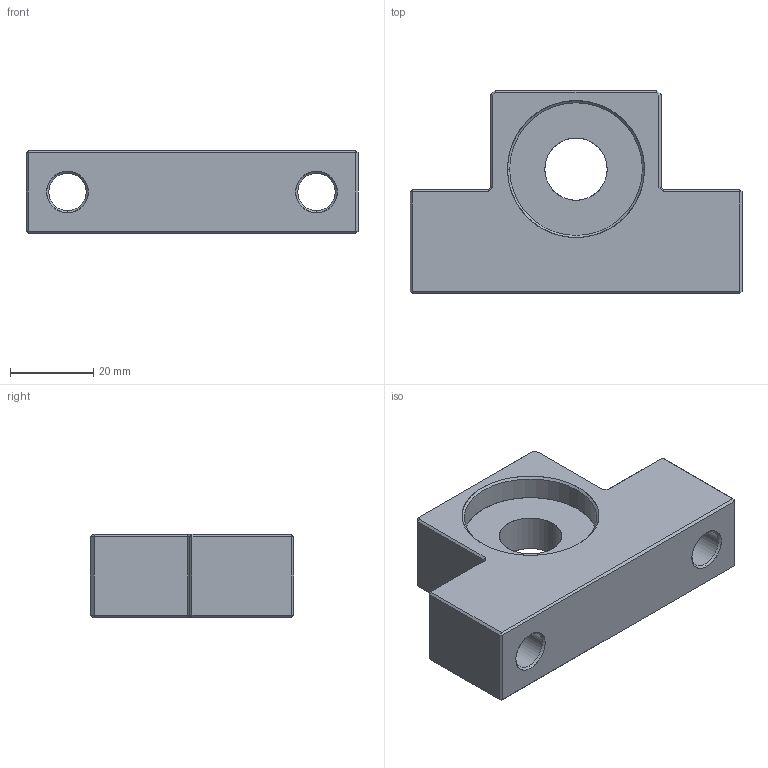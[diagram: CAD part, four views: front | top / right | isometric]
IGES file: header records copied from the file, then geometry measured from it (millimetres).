
Start section: SolidWorks IGES file using analytic representation for surfaces
Global section: file name: E:\同创达图纸\产品示意图\3D选型图\支撑座\EF系列\EF15.IGS; native system: SolidWorks 2012; preprocessor: SolidWorks 2012; author: gao; date: 130702.171430; units: millimetre
Bounding box: 80 x 49 x 20 mm (x, y, z)
Surface area: 13162.9 mm2 (no closed solid volume)
Topology: 0 solids, 0 shells, 74 faces, 760 edges, 760 vertices
Faces by surface type: bspline 52, revolution 22
